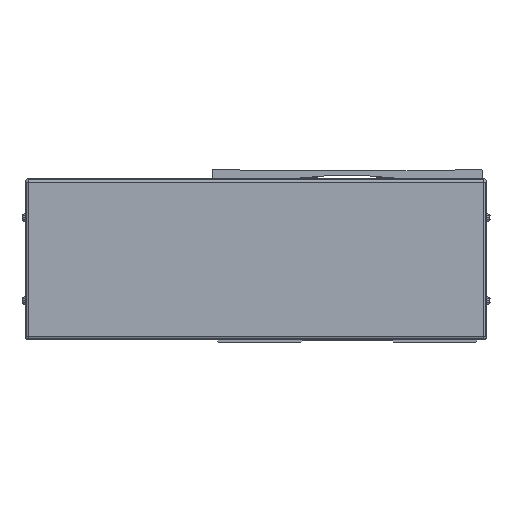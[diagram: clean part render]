
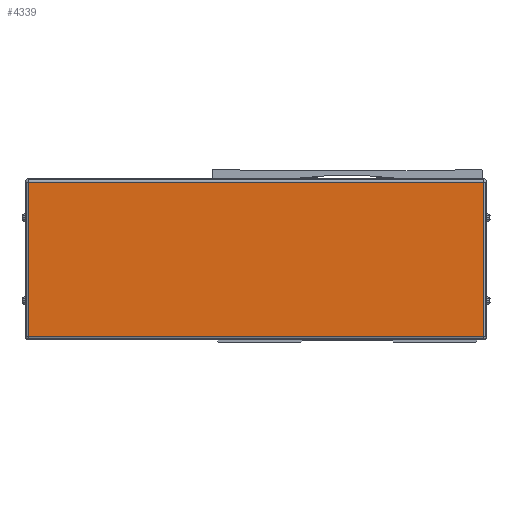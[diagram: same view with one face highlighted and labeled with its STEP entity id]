
A CAD part, front view. The second image highlights one B-rep face of the part: STEP entity #4339.
In plain terms, the highlighted planar face has unit normal (0, -1, 0).
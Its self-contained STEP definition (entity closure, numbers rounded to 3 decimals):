
#4339=ADVANCED_FACE('',(#10052),#10053,.F.);
#10052=FACE_OUTER_BOUND('',#18293,.T.);
#10053=PLANE('',#18294);
#18293=EDGE_LOOP('',(#31699,#31700,#31701,#31702));
#18294=AXIS2_PLACEMENT_3D('',#31703,#31704,#31705);
#31699=ORIENTED_EDGE('',*,*,#48969,.T.);
#31700=ORIENTED_EDGE('',*,*,#47826,.T.);
#31701=ORIENTED_EDGE('',*,*,#48970,.T.);
#31702=ORIENTED_EDGE('',*,*,#45739,.T.);
#31703=CARTESIAN_POINT('',(-655.,-522.778,-2.));
#31704=DIRECTION('',(0.,1.0,0.));
#31705=DIRECTION('',(-1.0,0.,0.));
#45739=EDGE_CURVE('',#54994,#54992,#54995,.T.);
#47826=EDGE_CURVE('',#57764,#57397,#58403,.T.);
#48969=EDGE_CURVE('',#54992,#57764,#60128,.T.);
#48970=EDGE_CURVE('',#57397,#54994,#60129,.T.);
#54992=VERTEX_POINT('',#68127);
#54994=VERTEX_POINT('',#68129);
#54995=LINE('',#68130,#68131);
#57397=VERTEX_POINT('',#71700);
#57764=VERTEX_POINT('',#72386);
#58403=LINE('',#73391,#73392);
#60128=LINE('',#75981,#75982);
#60129=LINE('',#75983,#75984);
#68127=CARTESIAN_POINT('',(-517.9,-522.778,44.5));
#68129=CARTESIAN_POINT('',(-517.9,-522.778,-48.5));
#68130=CARTESIAN_POINT('',(-517.9,-522.778,-2.));
#68131=VECTOR('',#84976,10.0);
#71700=CARTESIAN_POINT('',(-792.1,-522.778,-48.5));
#72386=CARTESIAN_POINT('',(-792.1,-522.778,44.5));
#73391=CARTESIAN_POINT('',(-792.1,-522.778,-2.));
#73392=VECTOR('',#87649,10.0);
#75981=CARTESIAN_POINT('',(-655.,-522.778,44.5));
#75982=VECTOR('',#89130,10.0);
#75983=CARTESIAN_POINT('',(-655.,-522.778,-48.5));
#75984=VECTOR('',#89131,10.0);
#84976=DIRECTION('',(0.,0.,1.0));
#87649=DIRECTION('',(0.,0.,-1.0));
#89130=DIRECTION('',(-1.0,0.,0.));
#89131=DIRECTION('',(1.0,0.,0.));
